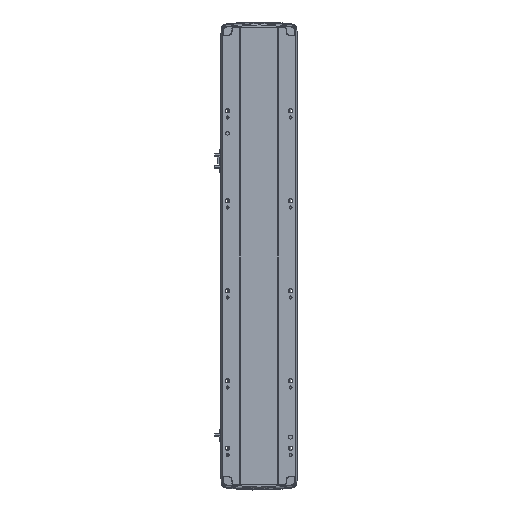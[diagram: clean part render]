
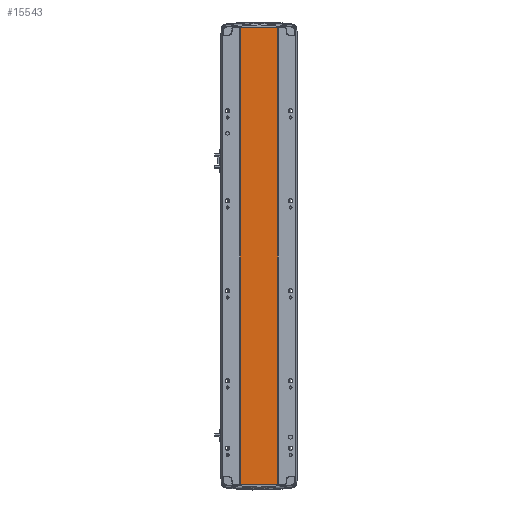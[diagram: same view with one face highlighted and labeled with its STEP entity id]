
A CAD part, front view. The second image highlights one B-rep face of the part: STEP entity #15543.
In plain terms, the highlighted planar face has unit normal (0, -1, 0).
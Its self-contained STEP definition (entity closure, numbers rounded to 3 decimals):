
#1359 = CARTESIAN_POINT ( 'NONE',  ( -41.791, 1., 1014.5 ) ) ;
#2146 = VECTOR ( 'NONE', #15318, 1000. ) ;
#2184 = VECTOR ( 'NONE', #22887, 1000. ) ;
#2276 = VERTEX_POINT ( 'NONE', #1359 ) ;
#2533 = CARTESIAN_POINT ( 'NONE',  ( -41.791, 1., 1014.5 ) ) ;
#3847 = VERTEX_POINT ( 'NONE', #30255 ) ;
#3953 = EDGE_CURVE ( 'NONE', #11418, #37295, #33555, .T. ) ;
#4354 = EDGE_LOOP ( 'NONE', ( #24808, #5804, #36686, #27628 ) ) ;
#5804 = ORIENTED_EDGE ( 'NONE', *, *, #22060, .F. ) ;
#5913 = DIRECTION ( 'NONE',  ( 0., 1., 0. ) ) ;
#7262 = CARTESIAN_POINT ( 'NONE',  ( 41.793, 0.998, 0. ) ) ;
#7553 = LINE ( 'NONE', #2533, #2146 ) ;
#11418 = VERTEX_POINT ( 'NONE', #37939 ) ;
#12208 = CARTESIAN_POINT ( 'NONE',  ( 0., 0.999, 0. ) ) ;
#12954 = AXIS2_PLACEMENT_3D ( 'NONE', #33951, #5913, #27907 ) ;
#15318 = DIRECTION ( 'NONE',  ( 0., 0., -1. ) ) ;
#15543 = ADVANCED_FACE ( 'NONE', ( #34642 ), #30790, .F. ) ;
#17856 = DIRECTION ( 'NONE',  ( 0., 0., -1. ) ) ;
#19722 = CARTESIAN_POINT ( 'NONE',  ( 0., 0.999, 1014.5 ) ) ;
#20858 = LINE ( 'NONE', #24152, #22823 ) ;
#22060 = EDGE_CURVE ( 'NONE', #3847, #37295, #20858, .T. ) ;
#22823 = VECTOR ( 'NONE', #17856, 1000. ) ;
#22887 = DIRECTION ( 'NONE',  ( 1., 0., 0. ) ) ;
#23361 = EDGE_CURVE ( 'NONE', #2276, #11418, #7553, .T. ) ;
#24152 = CARTESIAN_POINT ( 'NONE',  ( 41.793, 0.998, 1014.5 ) ) ;
#24808 = ORIENTED_EDGE ( 'NONE', *, *, #3953, .T. ) ;
#27628 = ORIENTED_EDGE ( 'NONE', *, *, #23361, .T. ) ;
#27907 = DIRECTION ( 'NONE',  ( -1., 0., 0. ) ) ;
#27982 = EDGE_CURVE ( 'NONE', #2276, #3847, #31243, .T. ) ;
#30255 = CARTESIAN_POINT ( 'NONE',  ( 41.793, 0.998, 1014.5 ) ) ;
#30790 = PLANE ( 'NONE',  #12954 ) ;
#31243 = LINE ( 'NONE', #19722, #2184 ) ;
#31582 = VECTOR ( 'NONE', #40209, 1000. ) ;
#33555 = LINE ( 'NONE', #12208, #31582 ) ;
#33951 = CARTESIAN_POINT ( 'NONE',  ( 0., 0.999, 1014.5 ) ) ;
#34642 = FACE_OUTER_BOUND ( 'NONE', #4354, .T. ) ;
#36686 = ORIENTED_EDGE ( 'NONE', *, *, #27982, .F. ) ;
#37295 = VERTEX_POINT ( 'NONE', #7262 ) ;
#37939 = CARTESIAN_POINT ( 'NONE',  ( -41.791, 1., 0. ) ) ;
#40209 = DIRECTION ( 'NONE',  ( 1., 0., 0. ) ) ;
